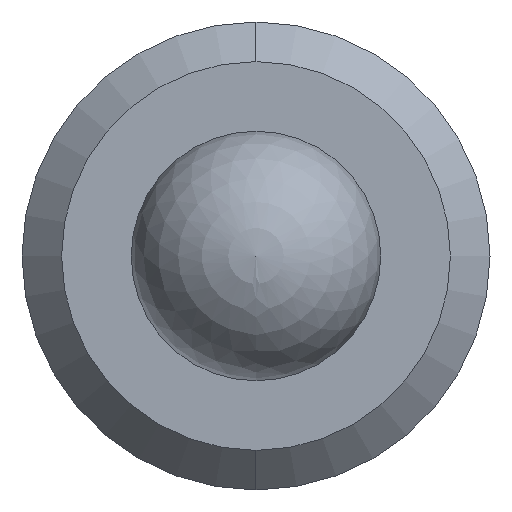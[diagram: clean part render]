
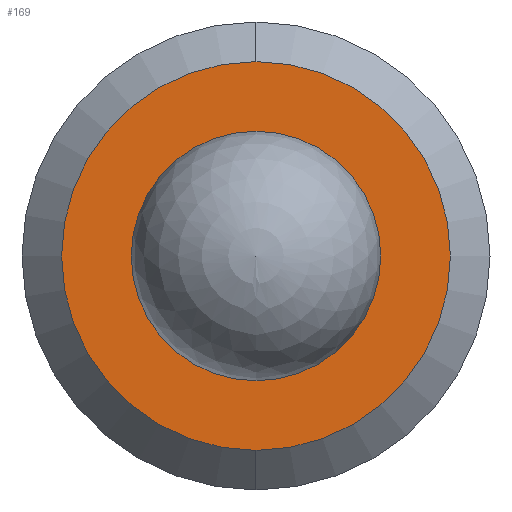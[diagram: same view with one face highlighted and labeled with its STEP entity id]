
A CAD part, left-side view. The second image highlights one B-rep face of the part: STEP entity #169.
In plain terms, the highlighted planar face has unit normal (-1, 0, 0).
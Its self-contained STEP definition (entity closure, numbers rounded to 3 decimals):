
#18 = DIRECTION ( 'NONE',  ( 0., 0., 1. ) ) ;
#21 = DIRECTION ( 'NONE',  ( -1., 0., 0. ) ) ;
#23 = CARTESIAN_POINT ( 'NONE',  ( 0., 0., 0. ) ) ;
#24 = CIRCLE ( 'NONE', #182, 0.8 ) ;
#57 = VERTEX_POINT ( 'NONE', #360 ) ;
#97 = CARTESIAN_POINT ( 'NONE',  ( 0., 0., 0.8 ) ) ;
#105 = DIRECTION ( 'NONE',  ( 0., 0., -1. ) ) ;
#106 = DIRECTION ( 'NONE',  ( -1., 0., 0. ) ) ;
#111 = CARTESIAN_POINT ( 'NONE',  ( 0., 0., 0. ) ) ;
#125 = CARTESIAN_POINT ( 'NONE',  ( 0., 0., 0. ) ) ;
#148 = AXIS2_PLACEMENT_3D ( 'NONE', #538, #536, #534 ) ;
#153 = AXIS2_PLACEMENT_3D ( 'NONE', #125, #609, #606 ) ;
#169 = ADVANCED_FACE ( 'NONE', ( #504, #601 ), #578, .F. ) ;
#182 = AXIS2_PLACEMENT_3D ( 'NONE', #23, #21, #18 ) ;
#218 = VERTEX_POINT ( 'NONE', #219 ) ;
#219 = CARTESIAN_POINT ( 'NONE',  ( 0., 0., -1.246 ) ) ;
#234 = CARTESIAN_POINT ( 'NONE',  ( 0., 0., 1.246 ) ) ;
#240 = AXIS2_PLACEMENT_3D ( 'NONE', #111, #106, #105 ) ;
#243 = EDGE_CURVE ( 'NONE', #576, #218, #485, .T. ) ;
#250 = EDGE_LOOP ( 'NONE', ( #545, #423 ) ) ;
#315 = AXIS2_PLACEMENT_3D ( 'NONE', #592, #599, #387 ) ;
#331 = ORIENTED_EDGE ( 'NONE', *, *, #243, .T. ) ;
#339 = VERTEX_POINT ( 'NONE', #97 ) ;
#354 = CIRCLE ( 'NONE', #148, 0.8 ) ;
#360 = CARTESIAN_POINT ( 'NONE',  ( 0., 0., -0.8 ) ) ;
#362 = EDGE_CURVE ( 'NONE', #57, #339, #24, .T. ) ;
#379 = CIRCLE ( 'NONE', #153, 1.246 ) ;
#385 = ORIENTED_EDGE ( 'NONE', *, *, #478, .T. ) ;
#387 = DIRECTION ( 'NONE',  ( 0., 0., -1. ) ) ;
#423 = ORIENTED_EDGE ( 'NONE', *, *, #362, .F. ) ;
#478 = EDGE_CURVE ( 'NONE', #218, #576, #379, .T. ) ;
#485 = CIRCLE ( 'NONE', #240, 1.246 ) ;
#504 = FACE_BOUND ( 'NONE', #250, .T. ) ;
#524 = EDGE_CURVE ( 'NONE', #339, #57, #354, .T. ) ;
#534 = DIRECTION ( 'NONE',  ( 0., 0., 1. ) ) ;
#536 = DIRECTION ( 'NONE',  ( -1., 0., 0. ) ) ;
#538 = CARTESIAN_POINT ( 'NONE',  ( 0., 0., 0. ) ) ;
#545 = ORIENTED_EDGE ( 'NONE', *, *, #524, .F. ) ;
#574 = EDGE_LOOP ( 'NONE', ( #385, #331 ) ) ;
#576 = VERTEX_POINT ( 'NONE', #234 ) ;
#578 = PLANE ( 'NONE',  #315 ) ;
#592 = CARTESIAN_POINT ( 'NONE',  ( 0., 0., 0. ) ) ;
#599 = DIRECTION ( 'NONE',  ( 1., 0., 0. ) ) ;
#601 = FACE_OUTER_BOUND ( 'NONE', #574, .T. ) ;
#606 = DIRECTION ( 'NONE',  ( 0., 0., -1. ) ) ;
#609 = DIRECTION ( 'NONE',  ( -1., 0., 0. ) ) ;
